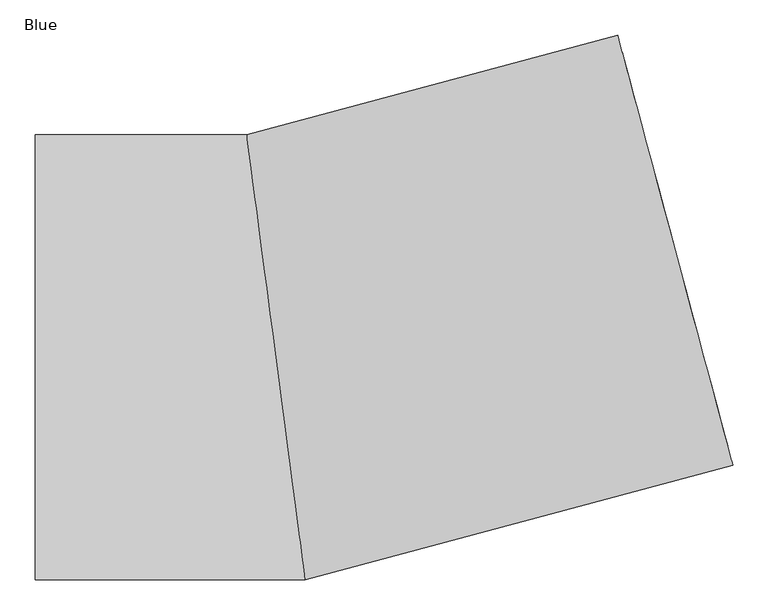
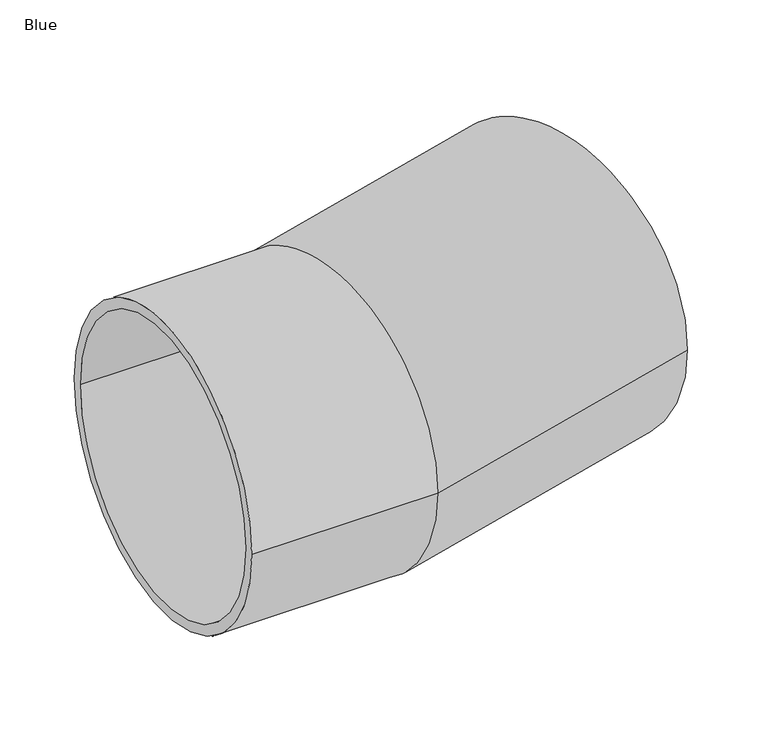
"""IFC4 building model written with IfcOpenShell, lengths in millimetres: pipe fitting geometry, AWADUKT PP SN10 SBend : Blue."""

from ifc_helpers import new_model, si_unit, frame, origin, place, context, project, spatial, polyline, circle_curve, ellipse_curve, source, transform, mapped, element, save
from ifc_brep_helpers import plane_surface, cylinder_surface, revolved_surface, advanced_brep


def blue_6a097fc3(model_context):
    return source(origin(), model_context, "Body", "AdvancedBrep", [
        advanced_brep(
        [(483.5386092, 455.6757767, 0.0), (646.5946076, -152.8574939, 0.0), (489.1291005, 434.8117788, 0.0), (641.0041162, -131.993496, 0.0), (-38.6268428, 293.4, 0.0), (38.6268428, -293.4, 0.0), (-41.4705367, 315.0, 0.0), (41.4705367, -315.0, 0.0), (-341.0, 315.0, 0.0), (-341.0, -315.0, 0.0), (-341.0, 293.4, 0.0), (-341.0, -293.4, 0.0)],
        [
            (0, 1, circle_curve(frame((565.0666084, 151.4091414, 0.0), z_axis=(0.9659258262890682, 0.258819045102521, 0.0), x_axis=(0.258819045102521, -0.9659258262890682, 0.0)), 315.0)),
            (1, 0, circle_curve(frame((565.0666084, 151.4091414, 0.0), z_axis=(0.9659258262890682, 0.258819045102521, 0.0), x_axis=(0.258819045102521, -0.9659258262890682, 0.0)), 315.0)),
            (2, 3, circle_curve(frame((565.0666084, 151.4091414, 0.0), z_axis=(-0.9659258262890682, -0.258819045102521, 0.0), x_axis=(0.258819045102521, -0.9659258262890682, 0.0)), 293.4)),
            (3, 2, circle_curve(frame((565.0666084, 151.4091414, 0.0), z_axis=(-0.9659258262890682, -0.258819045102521, 0.0), x_axis=(0.258819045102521, -0.9659258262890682, 0.0)), 293.4)),
            (2, 4),
            (4, 5, ellipse_curve(frame((0.0, 0.0, 0.0), z_axis=(-0.9914448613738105, -0.13052619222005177, 0.0), x_axis=(0.13052619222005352, -0.99144486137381, 0.0)), 295.931737, 293.4)),
            (5, 3),
            (5, 4, ellipse_curve(frame((0.0, 0.0, 0.0), z_axis=(-0.9914448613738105, -0.13052619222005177, 0.0), x_axis=(0.13052619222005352, -0.99144486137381, 0.0)), 295.931737, 293.4)),
            (0, 6),
            (6, 7, ellipse_curve(frame((0.0, 0.0, 0.0), z_axis=(0.9914448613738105, 0.13052619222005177, 0.0), x_axis=(-0.13052619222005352, 0.99144486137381, 0.0)), 317.7181226, 315.0)),
            (7, 1),
            (7, 6, ellipse_curve(frame((0.0, 0.0, 0.0), z_axis=(0.9914448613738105, 0.13052619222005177, 0.0), x_axis=(-0.13052619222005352, 0.99144486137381, 0.0)), 317.7181226, 315.0)),
            (8, 9, circle_curve(frame((-341.0, 0.0, 0.0), z_axis=(-1.0, 0.0, 0.0), x_axis=(0.0, -1.0, 0.0)), 315.0)),
            (9, 8, circle_curve(frame((-341.0, 0.0, 0.0), z_axis=(-1.0, 0.0, 0.0), x_axis=(0.0, -1.0, 0.0)), 315.0)),
            (10, 11, circle_curve(frame((-341.0, 0.0, 0.0), z_axis=(1.0, 0.0, 0.0), x_axis=(0.0, -1.0, 0.0)), 293.4)),
            (11, 10, circle_curve(frame((-341.0, 0.0, 0.0), z_axis=(1.0, 0.0, 0.0), x_axis=(0.0, -1.0, 0.0)), 293.4)),
            (4, 10),
            (11, 5),
            (6, 8),
            (9, 7),
        ],
        [
            plane_surface(frame((565.0666084, 151.4091414, 0.0), z_axis=(0.9659258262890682, 0.258819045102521, 0.0), x_axis=(0.0, 0.0, 1.0))),
            revolved_surface(polyline([(38.62684279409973, -293.39999999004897, 0.0), (641.0041162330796, -131.99349603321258, 0.0)]), (565.0666084, 151.4091414, 0.0), (-0.9659258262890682, -0.258819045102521, 0.0)),
            cylinder_surface(frame((565.0666084, 151.4091414, 0.0), z_axis=(0.9659258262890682, 0.258819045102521, 0.0), x_axis=(0.258819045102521, -0.9659258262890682, 0.0)), 315.0),
            plane_surface(frame((-341.0, 0.0, 0.0), z_axis=(-1.0, 0.0, 0.0), x_axis=(0.0, 0.0, 1.0))),
            revolved_surface(polyline([(-341.0, -293.4, 0.0), (38.6268428, -293.4, 0.0)]), (0.0, 0.0, 0.0), (-1.0, 0.0, 0.0)),
            cylinder_surface(frame((0.0, 0.0, 0.0), z_axis=(1.0, 0.0, 0.0), x_axis=(0.0, -1.0, 0.0)), 315.0),
        ],
        [
            (0, [[1, 2], [3, 4]]),
            (1, [[-3, 5, 6, 7]]),
            (1, [[-4, -7, 8, -5]]),
            (2, [[-1, 9, 10, 11]]),
            (2, [[-2, -11, 12, -9]]),
            (3, [[13, 14], [15, 16]]),
            (4, [[-6, 17, -16, 18]]),
            (4, [[-8, -18, -15, -17]]),
            (5, [[-10, 19, -14, 20]]),
            (5, [[-12, -20, -13, -19]]),
        ],
    ),
    ])


if __name__ == "__main__":
    model = new_model("IFC4")
    model_context = context("Model", 3, world=origin())
    ifc_project = project(units=[si_unit("LENGTHUNIT", "METRE", prefix="MILLI")], contexts=[model_context])
    site = spatial("IfcSite", under=ifc_project)
    building = spatial("IfcBuilding", under=site)
    placement = place(None, origin())
    blue_shape = blue_6a097fc3(model_context)
    element("IfcPipeFitting", 1, ObjectType="AWADUKT PP SN10 SBend : Blue", at=placement, inside=building, context=model_context, shape_type="MappedRepresentation", body=[
        mapped(blue_shape, transform((0.0, 0.0, 0.0), x_axis=(1.0, 0.0, 0.0), y_axis=(0.0, 1.0, 0.0), z_axis=(0.0, 0.0, 1.0))),
    ])
    save(model, "model.ifc")
